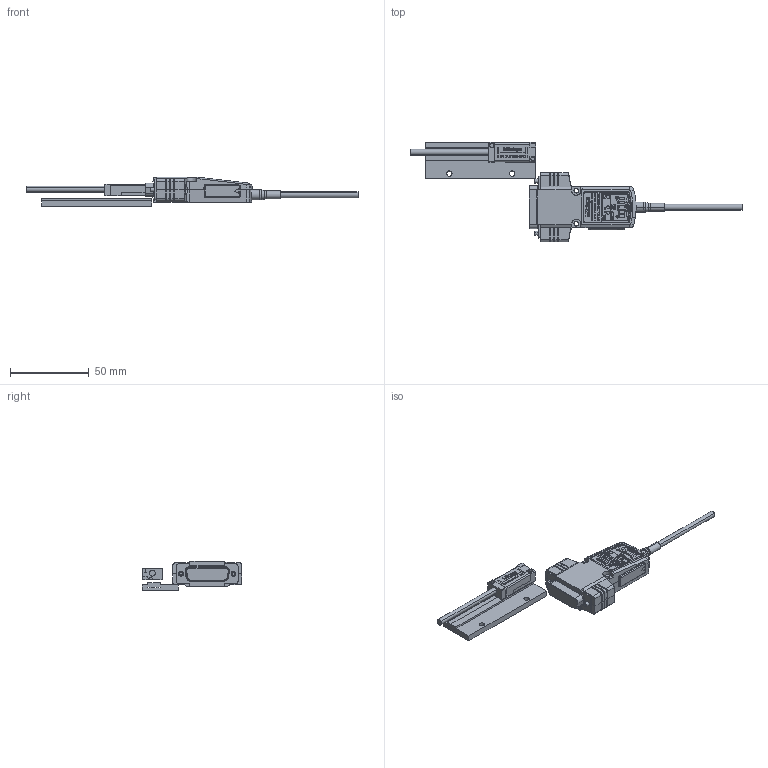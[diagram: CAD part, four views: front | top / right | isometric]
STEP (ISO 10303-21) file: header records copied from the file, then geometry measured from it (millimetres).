
FILE_DESCRIPTION(('Creo Elements/Direct Modeling STEP Export'),'2;1');
FILE_NAME('ST46EZA-50C.stp','2017-09-08T15:09:55',(''),(''),'Creo Elements/Direct Modeling STEP processor for AP214 (Solid Model)','Creo Elements/Direct Modeling 18.1B 29-Sep-2012 (C) Parametric Technology GmbH','');
FILE_SCHEMA(('AUTOMOTIVE_DESIGN { 1 0 10303 214 1 1 1 1 }'));
Length unit declared in the file: millimetre
Products named in the file (4): Detector_Head; IF_Unit; Scale_50; ST46EZA-50C
Assembly tree (3 placements, depth 2):
  ST46EZA-50C
    Scale_50
    IF_Unit
    Detector_Head
Bounding box: 211 x 63.36 x 18.77 mm (x, y, z)
Volume: 9830.7 mm3; surface area: 18750.9 mm2
Topology: 2 solids, 4 shells, 2244 faces, 5994 edges, 3907 vertices
Faces by surface type: plane 1380, cylinder 728, extrusion 39, cone 34, torus 30, bspline 29, revolution 4
Entity records: 76744 total; most frequent: CARTESIAN_POINT 20218, ORIENTED_EDGE 11979, DIRECTION 10975, EDGE_CURVE 5994, VECTOR 4119, LINE 4100, VERTEX_POINT 3907, AXIS2_PLACEMENT_3D 3425
